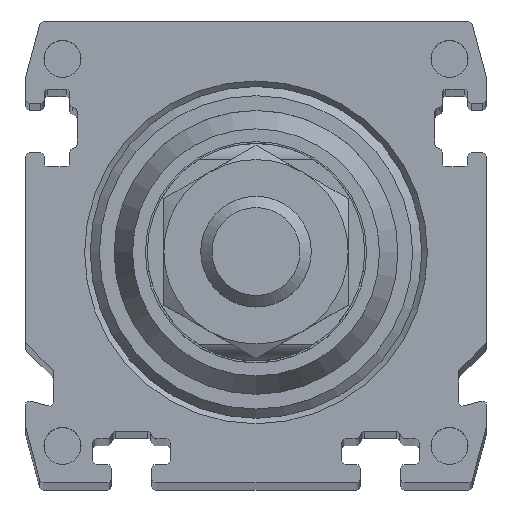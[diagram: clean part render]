
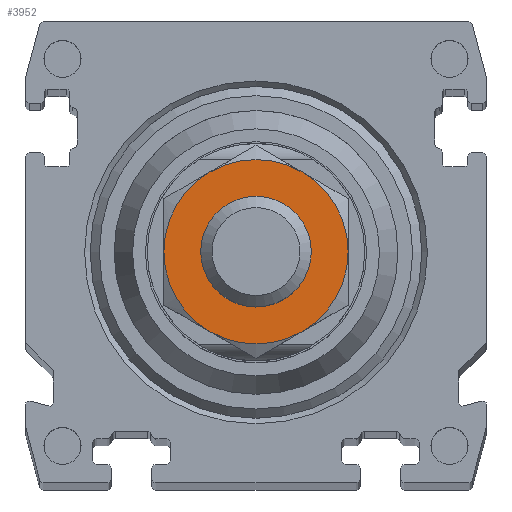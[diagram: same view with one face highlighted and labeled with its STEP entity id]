
A CAD part, top view. The second image highlights one B-rep face of the part: STEP entity #3952.
In plain terms, the highlighted planar face has unit normal (0, 0, 1) as drawn and (1, 0, 0) by its records, which use the part's own axes.
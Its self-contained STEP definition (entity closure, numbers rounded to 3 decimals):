
#769=PLANE('',#4249);
#883=CIRCLE('',#4234,5.);
#884=CIRCLE('',#4236,5.);
#885=CIRCLE('',#4238,5.);
#886=CIRCLE('',#4240,5.);
#887=CIRCLE('',#4242,5.);
#890=CIRCLE('',#4248,5.);
#891=CIRCLE('',#4250,3.);
#1167=ORIENTED_EDGE('',*,*,#2325,.F.);
#1168=ORIENTED_EDGE('',*,*,#2305,.T.);
#1169=ORIENTED_EDGE('',*,*,#2306,.T.);
#1170=ORIENTED_EDGE('',*,*,#2309,.T.);
#1171=ORIENTED_EDGE('',*,*,#2315,.T.);
#1172=ORIENTED_EDGE('',*,*,#2324,.T.);
#1173=ORIENTED_EDGE('',*,*,#2314,.T.);
#2305=EDGE_CURVE('',#2881,#2883,#883,.T.);
#2306=EDGE_CURVE('',#2883,#2884,#884,.T.);
#2309=EDGE_CURVE('',#2884,#2886,#885,.T.);
#2314=EDGE_CURVE('',#2888,#2881,#886,.T.);
#2315=EDGE_CURVE('',#2886,#2890,#887,.T.);
#2324=EDGE_CURVE('',#2890,#2888,#890,.T.);
#2325=EDGE_CURVE('',#2895,#2895,#891,.T.);
#2881=VERTEX_POINT('',#6084);
#2883=VERTEX_POINT('',#6090);
#2884=VERTEX_POINT('',#6094);
#2886=VERTEX_POINT('',#6106);
#2888=VERTEX_POINT('',#6121);
#2890=VERTEX_POINT('',#6130);
#2895=VERTEX_POINT('',#6167);
#3314=EDGE_LOOP('',(#1167));
#3315=EDGE_LOOP('',(#1168,#1169,#1170,#1171,#1172,#1173));
#3622=FACE_BOUND('',#3314,.T.);
#3623=FACE_BOUND('',#3315,.T.);
#3952=ADVANCED_FACE('',(#3622,#3623),#769,.F.);
#4234=AXIS2_PLACEMENT_3D('',#6091,#4741,#4742);
#4236=AXIS2_PLACEMENT_3D('',#6093,#4745,#4746);
#4238=AXIS2_PLACEMENT_3D('',#6105,#4749,#4750);
#4240=AXIS2_PLACEMENT_3D('',#6127,#4753,#4754);
#4242=AXIS2_PLACEMENT_3D('',#6129,#4757,#4758);
#4248=AXIS2_PLACEMENT_3D('',#6164,#4769,#4770);
#4249=AXIS2_PLACEMENT_3D('',#6165,#4771,#4772);
#4250=AXIS2_PLACEMENT_3D('',#6166,#4773,#4774);
#4741=DIRECTION('',(1.,0.,0.));
#4742=DIRECTION('',(0.,0.,-1.));
#4745=DIRECTION('',(1.,0.,0.));
#4746=DIRECTION('',(0.,0.,-1.));
#4749=DIRECTION('',(1.,0.,0.));
#4750=DIRECTION('',(0.,0.,-1.));
#4753=DIRECTION('',(1.,0.,0.));
#4754=DIRECTION('',(0.,0.,-1.));
#4757=DIRECTION('',(1.,0.,0.));
#4758=DIRECTION('',(0.,0.,-1.));
#4769=DIRECTION('',(1.,0.,0.));
#4770=DIRECTION('',(0.,0.,-1.));
#4771=DIRECTION('',(-1.,0.,0.));
#4772=DIRECTION('',(0.,0.,1.));
#4773=DIRECTION('',(1.,0.,0.));
#4774=DIRECTION('',(0.,0.,-1.));
#6084=CARTESIAN_POINT('',(1.6,0.,-5.));
#6090=CARTESIAN_POINT('',(1.6,4.33,-2.5));
#6091=CARTESIAN_POINT('',(1.6,0.,0.));
#6093=CARTESIAN_POINT('',(1.6,0.,0.));
#6094=CARTESIAN_POINT('',(1.6,4.33,2.5));
#6105=CARTESIAN_POINT('',(1.6,0.,0.));
#6106=CARTESIAN_POINT('',(1.6,0.,5.));
#6121=CARTESIAN_POINT('',(1.6,-4.33,-2.5));
#6127=CARTESIAN_POINT('',(1.6,0.,0.));
#6129=CARTESIAN_POINT('',(1.6,0.,0.));
#6130=CARTESIAN_POINT('',(1.6,-4.33,2.5));
#6164=CARTESIAN_POINT('',(1.6,0.,0.));
#6165=CARTESIAN_POINT('',(1.6,5.,0.));
#6166=CARTESIAN_POINT('',(1.6,0.,0.));
#6167=CARTESIAN_POINT('',(1.6,0.,-3.));
